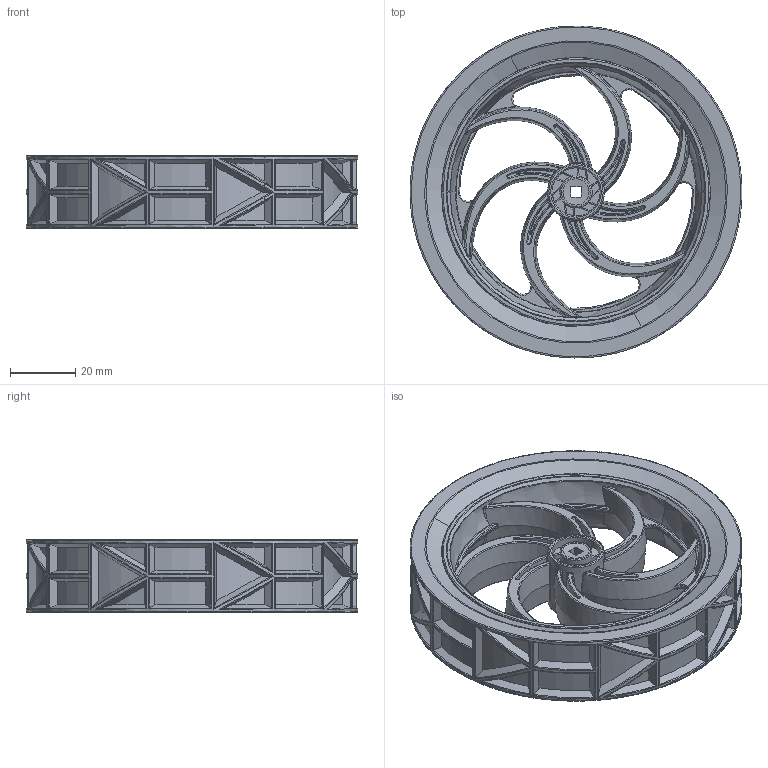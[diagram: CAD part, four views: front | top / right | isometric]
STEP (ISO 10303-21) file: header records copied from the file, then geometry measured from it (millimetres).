
FILE_DESCRIPTION (( 'STEP AP203' ), '1' );
FILE_NAME ('VEX-MEDIUM-WHEEL.STEP', '2007-08-25T22:22:30', ( 'Innovation First, Inc.' ), ( 'Innovation First, Inc.' ), 'SwSTEP 2.0', 'SolidWorks 2006052', '' );
FILE_SCHEMA (( 'CONFIG_CONTROL_DESIGN' ));
Length unit declared in the file: inch
Products named in the file (3): MEDIUM-WHEEL-HUB; VEX-MEDIUM-WHEEL; MEDIUM-WHEEL-TIRE
Assembly tree (2 placements, depth 2):
  VEX-MEDIUM-WHEEL
    MEDIUM-WHEEL-HUB
    MEDIUM-WHEEL-TIRE
Bounding box: 101.59 x 101.59 x 22.3 mm (x, y, z)
Volume: 73352.9 mm3; surface area: 58495.6 mm2
Topology: 2 solids, 2 shells, 1937 faces, 5262 edges, 3286 vertices
Faces by surface type: bspline 1048, plane 418, cylinder 337, cone 130, torus 4
Entity records: 112069 total; most frequent: CARTESIAN_POINT 74001, ORIENTED_EDGE 10384, EDGE_CURVE 5192, DIRECTION 4673, VERTEX_POINT 3289, B_SPLINE_CURVE_WITH_KNOTS 2695, EDGE_LOOP 1983, AXIS2_PLACEMENT_3D 1950
